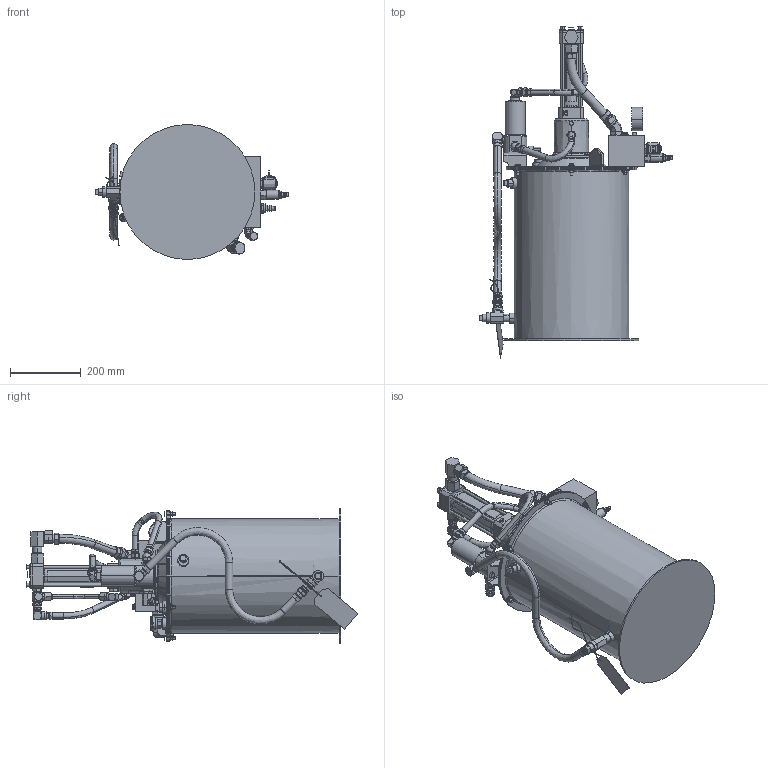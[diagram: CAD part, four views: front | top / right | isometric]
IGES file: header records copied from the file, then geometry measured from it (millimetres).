
Start section:  PTC IGES file: 247574-en-p.igs
Global section: file name: 247574-en-p.igs; native system: Creo Parametric by PTC Inc.; preprocessor: 2021072; author: qusrh3; organization: Unknown; date: 20221027.130324; units: inch
Bounding box: 546.76 x 936.83 x 381 mm (x, y, z)
Surface area: 1797097.5 mm2 (no closed solid volume)
Topology: 0 solids, 0 shells, 1690 faces, 8047 edges, 8042 vertices
Faces by surface type: revolution 1029, bspline 661
